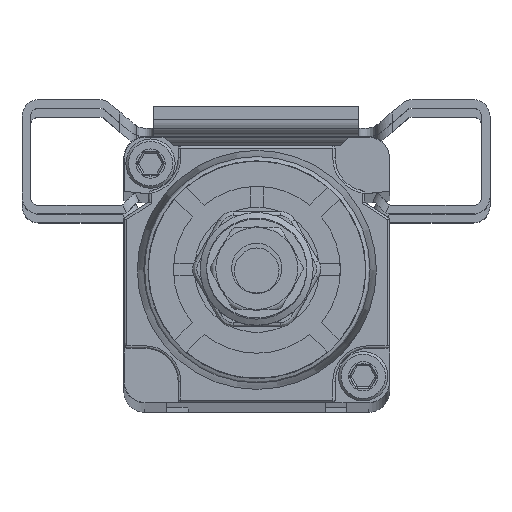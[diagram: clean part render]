
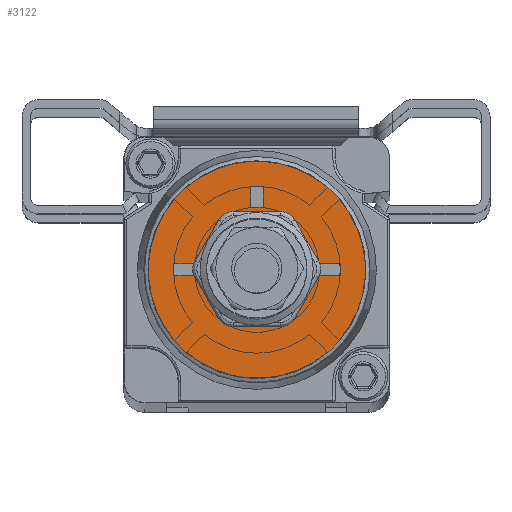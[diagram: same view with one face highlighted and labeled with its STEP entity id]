
A CAD part, top view. The second image highlights one B-rep face of the part: STEP entity #3122.
In plain terms, the highlighted planar face has unit normal (0, 0, 1).
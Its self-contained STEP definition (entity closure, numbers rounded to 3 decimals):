
#702=FACE_BOUND('',#6052,.T.);
#703=FACE_BOUND('',#6053,.T.);
#704=FACE_BOUND('',#6054,.T.);
#705=FACE_BOUND('',#6055,.T.);
#706=FACE_BOUND('',#6056,.T.);
#2017=CIRCLE('',#22532,3.993);
#2028=CIRCLE('',#22558,13.037);
#3122=ADVANCED_FACE('',(#702,#703,#704,#705,#706),#3875,.T.);
#3875=PLANE('',#22560);
#6052=EDGE_LOOP('',(#11053));
#6053=EDGE_LOOP('',(#11054,#11055,#11056,#11057));
#6054=EDGE_LOOP('',(#11058,#11059,#11060,#11061));
#6055=EDGE_LOOP('',(#11062,#11063,#11064,#11065));
#6056=EDGE_LOOP('',(#11066));
#11053=ORIENTED_EDGE('',*,*,#16670,.F.);
#11054=ORIENTED_EDGE('',*,*,#16680,.F.);
#11055=ORIENTED_EDGE('',*,*,#16683,.F.);
#11056=ORIENTED_EDGE('',*,*,#16686,.F.);
#11057=ORIENTED_EDGE('',*,*,#16688,.F.);
#11058=ORIENTED_EDGE('',*,*,#16711,.F.);
#11059=ORIENTED_EDGE('',*,*,#16712,.F.);
#11060=ORIENTED_EDGE('',*,*,#16713,.F.);
#11061=ORIENTED_EDGE('',*,*,#16714,.F.);
#11062=ORIENTED_EDGE('',*,*,#16699,.F.);
#11063=ORIENTED_EDGE('',*,*,#16703,.F.);
#11064=ORIENTED_EDGE('',*,*,#16705,.F.);
#11065=ORIENTED_EDGE('',*,*,#16707,.F.);
#11066=ORIENTED_EDGE('',*,*,#16710,.F.);
#13905=VERTEX_POINT('',#54318);
#13914=VERTEX_POINT('',#54340);
#13915=VERTEX_POINT('',#54342);
#13916=VERTEX_POINT('',#54346);
#13918=VERTEX_POINT('',#54352);
#13927=VERTEX_POINT('',#54378);
#13928=VERTEX_POINT('',#54380);
#13929=VERTEX_POINT('',#54385);
#13930=VERTEX_POINT('',#54389);
#13933=VERTEX_POINT('',#54401);
#13934=VERTEX_POINT('',#54404);
#13935=VERTEX_POINT('',#54405);
#13936=VERTEX_POINT('',#54407);
#13937=VERTEX_POINT('',#54409);
#16670=EDGE_CURVE('',#13905,#13905,#2017,.T.);
#16680=EDGE_CURVE('',#13914,#13915,#18787,.T.);
#16683=EDGE_CURVE('',#13916,#13914,#18790,.T.);
#16686=EDGE_CURVE('',#13918,#13916,#18793,.T.);
#16688=EDGE_CURVE('',#13915,#13918,#18795,.T.);
#16699=EDGE_CURVE('',#13927,#13928,#18802,.T.);
#16703=EDGE_CURVE('',#13929,#13927,#18806,.T.);
#16705=EDGE_CURVE('',#13930,#13929,#18808,.T.);
#16707=EDGE_CURVE('',#13928,#13930,#18810,.T.);
#16710=EDGE_CURVE('',#13933,#13933,#2028,.T.);
#16711=EDGE_CURVE('',#13934,#13935,#18811,.T.);
#16712=EDGE_CURVE('',#13936,#13934,#18812,.T.);
#16713=EDGE_CURVE('',#13937,#13936,#18813,.T.);
#16714=EDGE_CURVE('',#13935,#13937,#18814,.T.);
#18787=LINE('',#54341,#20654);
#18790=LINE('',#54347,#20657);
#18793=LINE('',#54353,#20660);
#18795=LINE('',#54356,#20662);
#18802=LINE('',#54379,#20669);
#18806=LINE('',#54386,#20673);
#18808=LINE('',#54390,#20675);
#18810=LINE('',#54393,#20677);
#18811=LINE('',#54403,#20678);
#18812=LINE('',#54406,#20679);
#18813=LINE('',#54408,#20680);
#18814=LINE('',#54410,#20681);
#20654=VECTOR('',#27351,1.);
#20657=VECTOR('',#27356,1.);
#20660=VECTOR('',#27361,1.);
#20662=VECTOR('',#27365,1.);
#20669=VECTOR('',#27386,1.);
#20673=VECTOR('',#27392,1.);
#20675=VECTOR('',#27396,1.);
#20677=VECTOR('',#27400,1.);
#20678=VECTOR('',#27413,1.);
#20679=VECTOR('',#27414,1.);
#20680=VECTOR('',#27415,1.);
#20681=VECTOR('',#27416,1.);
#22532=AXIS2_PLACEMENT_3D('',#54317,#27328,#27329);
#22558=AXIS2_PLACEMENT_3D('',#54400,#27409,#27410);
#22560=AXIS2_PLACEMENT_3D('',#54411,#27417,#27418);
#27328=DIRECTION('',(0.,0.,1.));
#27329=DIRECTION('',(1.,0.,0.));
#27351=DIRECTION('',(0.,-1.,0.));
#27356=DIRECTION('',(-1.,0.,0.));
#27361=DIRECTION('',(0.,1.,0.));
#27365=DIRECTION('',(1.,0.,0.));
#27386=DIRECTION('',(0.,1.,0.));
#27392=DIRECTION('',(1.,0.,0.));
#27396=DIRECTION('',(0.,-1.,0.));
#27400=DIRECTION('',(-1.,0.,0.));
#27409=DIRECTION('',(0.,0.,-1.));
#27410=DIRECTION('',(-1.,0.,0.));
#27413=DIRECTION('',(1.,0.,0.));
#27414=DIRECTION('',(0.,-1.,0.));
#27415=DIRECTION('',(-1.,0.,0.));
#27416=DIRECTION('',(0.,1.,0.));
#27417=DIRECTION('',(0.,0.,1.));
#27418=DIRECTION('',(-1.,0.,0.));
#54317=CARTESIAN_POINT('',(50.023,-15.873,-133.036));
#54318=CARTESIAN_POINT('',(54.016,-15.873,-133.036));
#54340=CARTESIAN_POINT('',(49.274,-5.928,-133.036));
#54341=CARTESIAN_POINT('',(49.274,-5.928,-133.036));
#54342=CARTESIAN_POINT('',(49.274,-8.424,-133.036));
#54346=CARTESIAN_POINT('',(50.771,-5.928,-133.036));
#54347=CARTESIAN_POINT('',(50.771,-5.928,-133.036));
#54352=CARTESIAN_POINT('',(50.771,-8.424,-133.036));
#54353=CARTESIAN_POINT('',(50.771,-8.424,-133.036));
#54356=CARTESIAN_POINT('',(49.274,-8.424,-133.036));
#54378=CARTESIAN_POINT('',(59.967,-16.621,-133.036));
#54379=CARTESIAN_POINT('',(59.967,-16.621,-133.036));
#54380=CARTESIAN_POINT('',(59.967,-15.124,-133.036));
#54385=CARTESIAN_POINT('',(57.472,-16.621,-133.036));
#54386=CARTESIAN_POINT('',(57.472,-16.621,-133.036));
#54389=CARTESIAN_POINT('',(57.472,-15.124,-133.036));
#54390=CARTESIAN_POINT('',(57.472,-15.124,-133.036));
#54393=CARTESIAN_POINT('',(59.967,-15.124,-133.036));
#54400=CARTESIAN_POINT('',(50.023,-15.873,-133.036));
#54401=CARTESIAN_POINT('',(36.986,-15.873,-133.036));
#54403=CARTESIAN_POINT('',(40.078,-16.621,-133.036));
#54404=CARTESIAN_POINT('',(40.078,-16.621,-133.036));
#54405=CARTESIAN_POINT('',(42.574,-16.621,-133.036));
#54406=CARTESIAN_POINT('',(40.078,-15.124,-133.036));
#54407=CARTESIAN_POINT('',(40.078,-15.124,-133.036));
#54408=CARTESIAN_POINT('',(42.574,-15.124,-133.036));
#54409=CARTESIAN_POINT('',(42.574,-15.124,-133.036));
#54410=CARTESIAN_POINT('',(42.574,-16.621,-133.036));
#54411=CARTESIAN_POINT('',(50.023,-15.873,-133.036));
